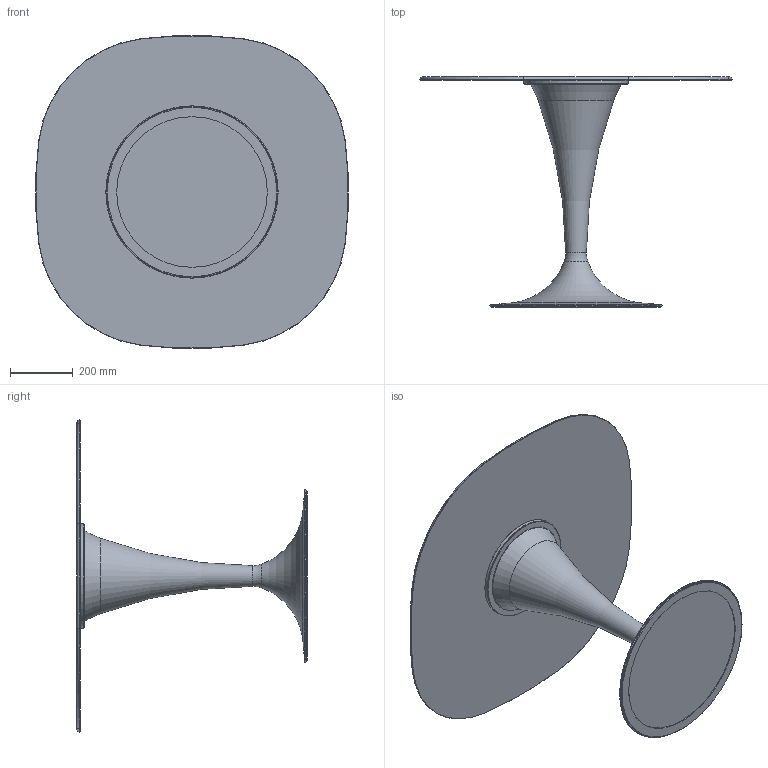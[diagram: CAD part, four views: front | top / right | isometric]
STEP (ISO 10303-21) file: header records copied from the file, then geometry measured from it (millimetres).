
FILE_DESCRIPTION((''),'2;1');
FILE_NAME('C:\AutodeskVault\AreaLavoro\Progetti\SoVeT Italia\1. Tavoli_Dining tables\Flûte\Web file\Flûte Web\P1646.stp','2012-05-02T11:23:32',('Gianluca'),('So.Ve.T. s.r.l.'),'Autodesk Inventor 2011','Autodesk Inventor 2011','IL PROGETTO E'' DI ESCLUSIVA PROPRIETA'' DELLA SO.VE.T. srl. E'' VIETATA OGNI RIPRODUZIONE TOTALE O PARZIALE E QUALSIASI UTILIZZO NON AUTORIZZATO.');
FILE_SCHEMA(('AUTOMOTIVE_DESIGN { 1 0 10303 214 1 1 1 1 }'));
Length unit declared in the file: millimetre
Products named in the file (1): P1646 Contorno semplificato
Bounding box: 997.51 x 735 x 997.51 mm (x, y, z)
Volume: 25606231.3 mm3; surface area: 2434537.8 mm2
Topology: 1 solids, 1 shells, 37 faces, 77 edges, 46 vertices
Faces by surface type: torus 15, cone 10, plane 6, cylinder 5, bspline 1
Full cylindrical faces by diameter (mm): 330 x1, 332 x1, 481 x1, 541 x1, 550 x1
Entity records: 991 total; most frequent: DIRECTION 184, CARTESIAN_POINT 166, ORIENTED_EDGE 118, AXIS2_PLACEMENT_3D 88, EDGE_CURVE 59, EDGE_LOOP 56, CIRCLE 51, VERTEX_POINT 43
